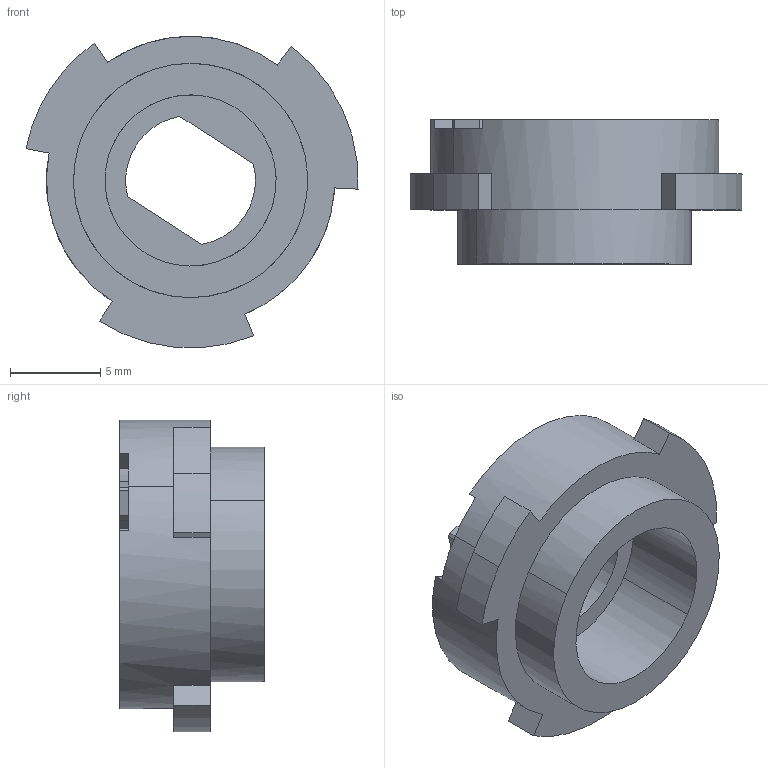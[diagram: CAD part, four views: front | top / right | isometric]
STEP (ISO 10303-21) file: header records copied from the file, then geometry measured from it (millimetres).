
FILE_DESCRIPTION(('CATIA V5 STEP Exchange'),'2;1');
FILE_NAME('C:\Users\Administrator\Desktop\座椅主动阻尼控制系统样件采购申请-\数模\573.4601.03_V1（BPC0010037）.stp','2021-01-28T03:24:02+00:00',('none'),('none'),'CATIA Version 5 Release 21 GA (IN-10)','CATIA V5 STEP AP214','none');
FILE_SCHEMA(('AUTOMOTIVE_DESIGN { 1 0 10303 214 1 1 1 1 }'));
Length unit declared in the file: millimetre
Products named in the file (1): 573.4601.03_V1
Bounding box: 18.42 x 8 x 17.28 mm (x, y, z)
Volume: 924.7 mm3; surface area: 1119.5 mm2
Topology: 1 solids, 1 shells, 62 faces, 182 edges, 127 vertices
Faces by surface type: cylinder 32, plane 30
Entity records: 2623 total; most frequent: CARTESIAN_POINT 527, ORIENTED_EDGE 364, DIRECTION 288, EDGE_CURVE 182, AXIS2_PLACEMENT_3D 138, VERTEX_POINT 127, VECTOR 89, LINE 89
